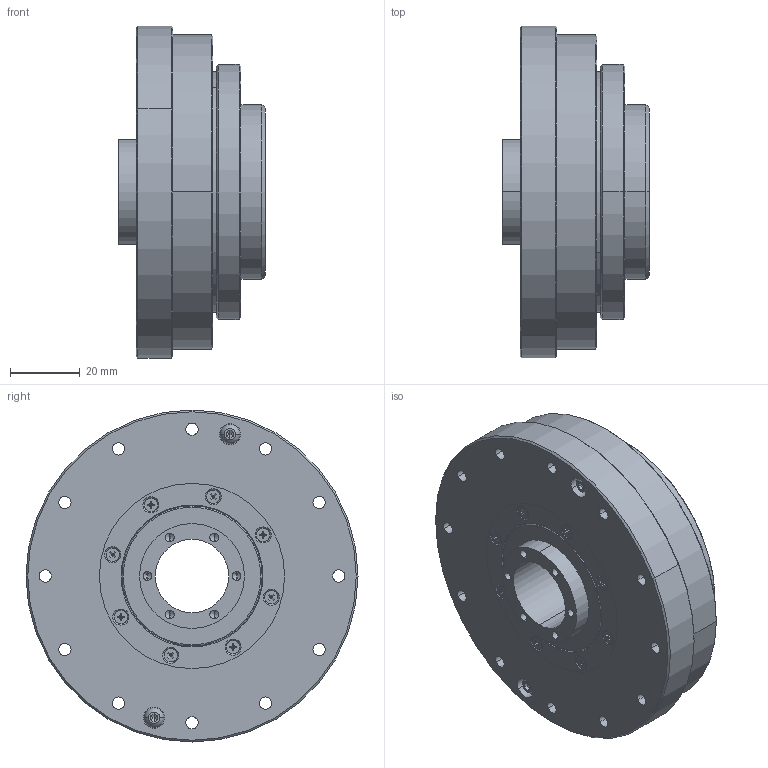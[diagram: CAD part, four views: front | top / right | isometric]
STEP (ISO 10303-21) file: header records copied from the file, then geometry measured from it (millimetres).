
FILE_DESCRIPTION (( 'STEP AP203' ), '1' );
FILE_NAME ('LHD-20-XXX-C-III.STEP', '2022-09-23T07:38:23', ( '' ), ( '' ), 'SwSTEP 2.0', 'SolidWorks 2013', '' );
FILE_SCHEMA (( 'CONFIG_CONTROL_DESIGN' ));
Length unit declared in the file: millimetre
Products named in the file (21): 柔性轴承RZC-20S; LHD-20-XXX-P02-III; 内六角圆柱头螺钉M3 x 6_内六角圆柱头螺钉M3 x 6; RZC-20S内外圈+钢球; LHD-20-XXX-P03-III; 坋趼羞麥芛蹟隊M2 x 4_ISO 7046-1 - M2 x 4 - Z --- 4N; LHD-20-P04A-2; 15Z-30405; LHD-20-P06-III-S0; DB-20D-III ; RZC-20S悵厥殤1; 囀鞠褒攫芛蹟隊M3X10_GB_SOCKET_TYPE7 M3X6-N; LHD-20-P04A-1; LHD-20-P08-III-S0; LHD-20-XXX-P01-TT; LHS-20-P07(L)-III (2); TCY69785; LHD-20-XXX-C-III; 囀鞠褒攫芛蹟隊M3X6_GB_SOCKET_TYPE7 M3X6-N; 6806_Rolling bearings 61806 GB 276-94
Assembly tree (42 placements, depth 4):
  LHD-20-XXX-C-III
    LHD-20-XXX-P03-III
      LHD-20-XXX-P03-III
      DB-20D-III 
      柔性轴承RZC-20S
        RZC-20S内外圈+钢球
        RZC-20S悵厥殤1
    LHD-20-XXX-P01-TT
    LHD-20-XXX-P02-III
    LHD-20-P04A-1
    LHD-20-P04A-2
    内六角圆柱头螺钉M3 x 6_内六角圆柱头螺钉M3 x 6  x12
    囀鞠褒攫芛蹟隊M3X6_GB_SOCKET_TYPE7 M3X6-N  x2
    TCY69785
    LHD-20-P06-III-S0
    LHD-20-P08-III-S0
    囀鞠褒攫芛蹟隊M3X10_GB_SOCKET_TYPE7 M3X6-N  x2
    6806_Rolling bearings 61806 GB 276-94  x2
    LHS-20-P07(L)-III (2)
    坋趼羞麥芛蹟隊M2 x 4_ISO 7046-1 - M2 x 4 - Z --- 4N  x8
    15Z-30405  x2
Bounding box: 42 x 95 x 95 mm (x, y, z)
Volume: 146371.9 mm3; surface area: 126153 mm2
Topology: 64 solids, 64 shells, 2055 faces, 6039 edges, 3809 vertices
Faces by surface type: cylinder 614, plane 565, torus 352, cone 326, sphere 198
Entity records: 42931 total; most frequent: CARTESIAN_POINT 9268, DIRECTION 6877, ORIENTED_EDGE 6256, EDGE_CURVE 3128, AXIS2_PLACEMENT_3D 3014, VERTEX_POINT 2041, CIRCLE 1762, EDGE_LOOP 1525
